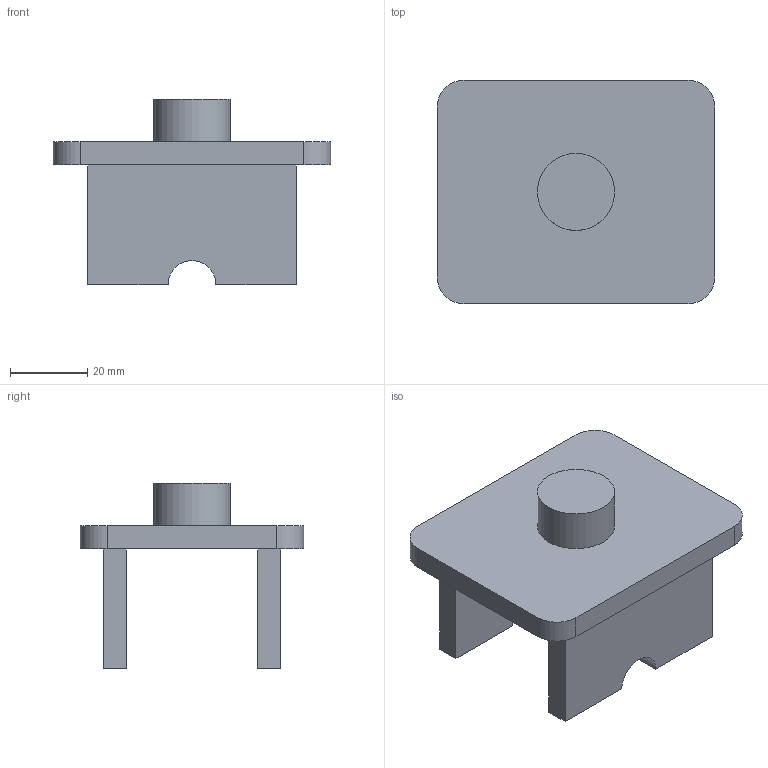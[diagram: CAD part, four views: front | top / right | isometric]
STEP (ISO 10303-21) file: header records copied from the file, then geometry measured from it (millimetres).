
FILE_DESCRIPTION(('Open CASCADE Model'),'2;1');
FILE_NAME('Open CASCADE Shape Model','2026-09-16T16:54:27',('Author'),( 'Open CASCADE'),'Open CASCADE STEP processor 7.8','Open CASCADE 7.8' ,'Unknown');
FILE_SCHEMA(('AUTOMOTIVE_DESIGN { 1 0 10303 214 1 1 1 1 }'));
Length unit declared in the file: millimetre
Products named in the file (1): Open CASCADE STEP translator 7.8 9
Bounding box: 72 x 58 x 48 mm (x, y, z)
Volume: 47622.8 mm3; surface area: 17730.3 mm2
Topology: 1 solids, 1 shells, 26 faces, 63 edges, 42 vertices
Faces by surface type: plane 19, cylinder 7
Full cylindrical faces by diameter (mm): 20 x1
Entity records: 1604 total; most frequent: CARTESIAN_POINT 298, DIRECTION 247, LINE 157, VECTOR 157, ORIENTED_EDGE 126, PCURVE 126, DEFINITIONAL_REPRESENTATION 126, EDGE_CURVE 63
